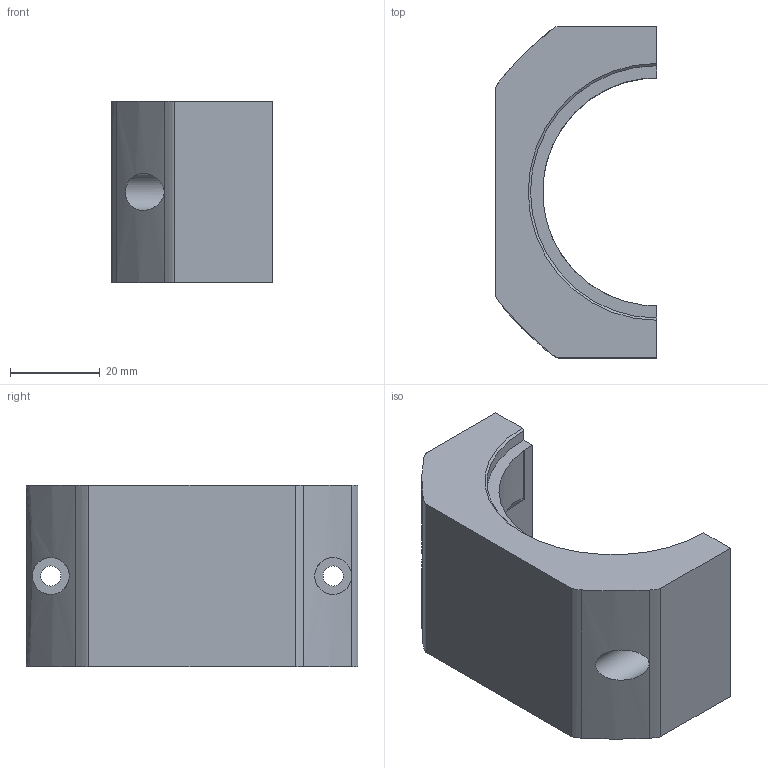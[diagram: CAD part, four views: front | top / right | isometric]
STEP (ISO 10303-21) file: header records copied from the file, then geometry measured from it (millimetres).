
FILE_DESCRIPTION(/* description */ ('STEP AP242 Edition 2','CAx-IF Rec.Pracs.---Representation and Presentation of Product Manufacturing Information (PMI)---4.0---2014-10-13','CAx-IF Rec.Pracs.---3D Tessellated Geometry---0.4---2014-09-14','2;1','CAx-IF Rec.Pracs.---User Defined Attributes---1.5---2016-08-15'),/* implementation_level */ '2;1');
FILE_NAME(/* name */ 'Assy_ForMFG - KD-C-504X_Clamp_Flat',/* time_stamp */ '2026-05-15T19:56:32Z',/* author */ (''),/* organization */ (''),/* preprocessor_version */ 'ST-DEVELOPER v20',/* originating_system */ 'ONSHAPE BY PTC INC, 1.215',/* authorisation */ ' ');
FILE_SCHEMA (('AP242_MANAGED_MODEL_BASED_3D_ENGINEERING_MIM_LF { 1 0 10303 442 3 1 4 }'));
Length unit declared in the file: metre
Products named in the file (1): KD-C-504X_Clamp_Flat
Bounding box: 36 x 74 x 40.5 mm (x, y, z)
Volume: 48464.8 mm3; surface area: 14567.4 mm2
Topology: 1 solids, 1 shells, 56 faces, 142 edges, 86 vertices
Faces by surface type: cylinder 18, plane 14, bspline 13, torus 4, sphere 4, cone 3
Full cylindrical faces by diameter (mm): 4.5 x2, 8.25 x2
Entity records: 1951 total; most frequent: CARTESIAN_POINT 710, ORIENTED_EDGE 264, DIRECTION 228, EDGE_CURVE 132, AXIS2_PLACEMENT_3D 89, VERTEX_POINT 84, EDGE_LOOP 66, FACE_BOUND 66
